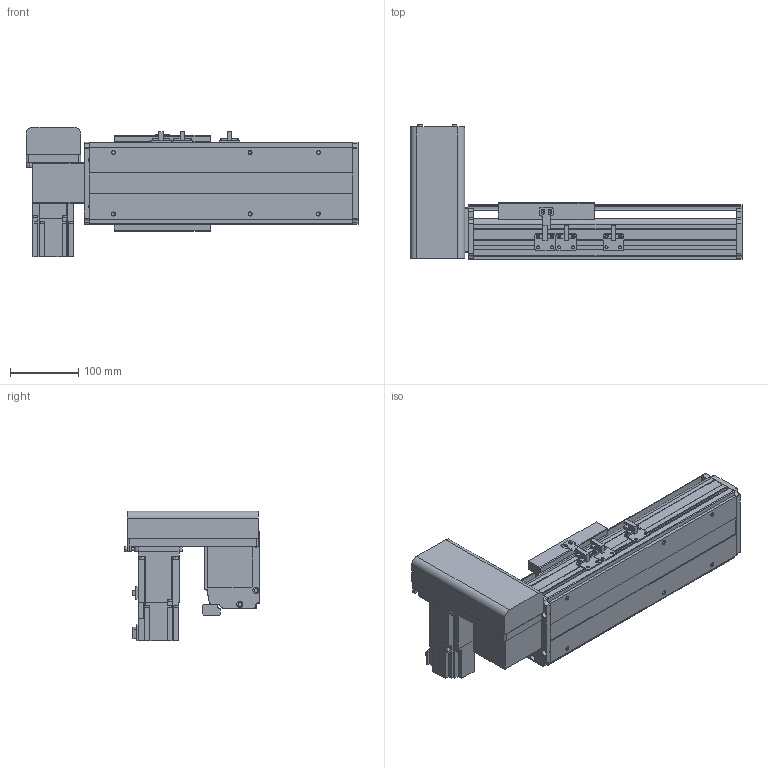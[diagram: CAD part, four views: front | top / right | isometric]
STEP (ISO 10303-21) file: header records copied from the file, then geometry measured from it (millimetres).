
FILE_DESCRIPTION( ( 'STEP AP214' ), '1' );
FILE_NAME( 'x:/temp/worker_27/temp/exporttempdir_6708_221_otdhZ/format_0/PBS120-P40-S100-RU-T40-C1-N(0).stp', '2022-06-06T00:48:17', ( 'License CC BY-ND 4.0' ), ( 'CADENAS' ), ' ', 'PARTsolutions', ' ' );
FILE_SCHEMA( ( 'AUTOMOTIVE_DESIGN { 1 0 10303 214 1 1 1 1 }' ) );
Length unit declared in the file: millimetre
Products named in the file (7): PBS120-P40-S100-RU-T40-C1-N(0); _PBS120-S100()_body; _PBS120T-RU_motors; _T40-p1; _PBS120_sliser; _PBS120_plant; _PBS120_sensor
Assembly tree (8 placements, depth 2):
  PBS120-P40-S100-RU-T40-C1-N(0)
    _PBS120-S100()_body
    _PBS120T-RU_motors
    _T40-p1
    _PBS120_sliser
    _PBS120_plant
    _PBS120_sensor  x3
Bounding box: 486 x 198 x 189.7 mm (x, y, z)
Volume: 3031734 mm3; surface area: 517473.7 mm2
Topology: 8 solids, 8 shells, 798 faces, 2106 edges, 1357 vertices
Faces by surface type: plane 539, cylinder 219, cone 38, torus 2
Full cylindrical faces by diameter (mm): 2.459 x6, 3.242 x4, 4 x2, 4.134 x4, 4.5 x10, 4.917 x10, 5.5 x11, 6 x2, 6.6 x1, 7 x2, 8.5 x4, 9 x4, 12 x1, 14 x1, 30 x2, 40 x1, 50 x2
Entity records: 26484 total; most frequent: DIRECTION 3620, CARTESIAN_POINT 3587, ORIENTED_EDGE 3442, EDGE_CURVE 1721, LINE 1228, VECTOR 1228, AXIS2_PLACEMENT_3D 1196, VERTEX_POINT 1163
